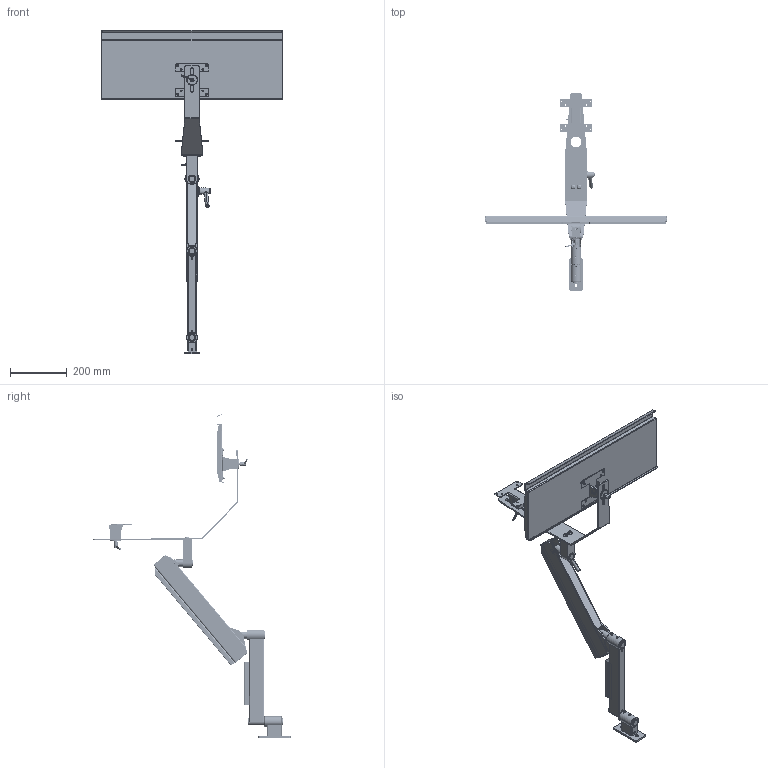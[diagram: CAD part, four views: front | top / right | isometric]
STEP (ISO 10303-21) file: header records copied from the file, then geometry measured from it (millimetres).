
FILE_DESCRIPTION (( 'STEP AP203' ), '1' );
FILE_NAME ('70-8651-00 REV AA, INT. ULTRA FLEX 360, 18-43 LB - UP.STEP', '2025-10-01T23:24:58', ( '' ), ( '' ), 'SwSTEP 2.0', 'SolidWorks 2025', '' );
FILE_SCHEMA (( 'CONFIG_CONTROL_DESIGN' ));
Length unit declared in the file: inch
Products named in the file (65): 11-0601-99 REV AA, CONICAL KNOB, BRAKE ASSEMBLY; 71-0072-RX REV AA, EXTENSION ARM, RAW; 11-0602-RX REV AA, HANDLE, BRAKE ASSEMBLY; 025-064-00, LOCK LEVER, QUARTER20 x .390; 004-050-00, WASHER, FIBER, .032 THK, .265ID; 71-0071-RX REV AA, AXLE PIN, LONG; 71-0028-RX REV AA, TAB, MOUNT_MACHINE; 11-0027-RX REV AA, PLASTIC DISC, BRAKE ASSEMBLY_MACHINE; 71-1051-RX REV AA, SPRING BLOCK; 004-144-00; 70-0269-00 REV AA, CABLE COVER, 13.5in FLEX, BLACK; 71-0090-RX REV AA, HOUSING, MOUNT; 41-0060-RX REV AA, BODY, VESA, INT. WORKSTATION; 006-004-00_006-004-00; 71-0218-RX REV AA, PLATE, MICRO HD, 4.5 x 2.0 x .25_Laser; 11-0405-BLKX REV AA, BRACKET, INTEGRATED WORKSTATION, BLACK; 010-012-00, RETAINING RING, EXTERNAL, .875in SHAFT; 70-1343-00 REV AA, FLEX SECTION, 13.5in, 18-43 LB_Angle Up; 010-011-00, RETAINING RING, EXT, .250 SHAFT_010-011-00; 41-0063-RX REV AA, PIN, TILT, VESA; 016-012-00, OILITE PLUS BEARING, .876 IDx1.0 OD x 1.0; 11-0650-00 REV AA, BRAKE HANDLE ASSEMBLY; 71-0038-RX REV AA, PIVOT, KNUCKLE, ELECTROLESS NICKEL; 71-1301-BLKX REV AA, FLEX HOUSING, 13.5in, BLACK_Weld; 70-0018-00 REV AA, MICRO HD WALL MOUNT; 005-084-00, BOLT, 1''4-20x2.75; 71-0037-RX REV AA, PIVOT, THREADED; 11-0062-BLKX REV AA, BRACKET, VESA, SHEETMETAL, BLACK; 002-306-00, BHSCS, 3''8-16 x .625; 71-1300-RX REV AA, HOUSING, 13.5in FLEX; 11-0406-BLKX REV AA, KEYBOARD TRAY, 25x8, BLACK; 002-041-00_002-041-00; 016-070-00, BEARING, PLASTIC, .5ID x .625 OD x .75; 71-0031-RX REV AA, KNUCKLE, MOUNT_MACHINE; 007-017-00, SHSS, 1''4-20, .25L_DEFAULT; 70-1012-00 REV AA, 12in RIGID SECTION; 006-059-00; 11-0028-RX REV AA, PLASTIC DISC, VESA; 002-088-00, FHSCS 10-32 x .5L, BO_002-088-00; 71-0972-99 REV AA, END CAP, FLEX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
Assembly tree (116 placements, depth 5):
  70-8651-00 REV AA, INT. ULTRA FLEX 360, 18-43 LB - UP
    70-0018-00 REV AA, MICRO HD WALL MOUNT
      71-0218-RX REV AA, PLATE, MICRO HD, 4.5 x 2.0 x .25_Laser
      71-0090-RX REV AA, HOUSING, MOUNT
      71-2113-RX REV AA, HOUSING, BEARING, TALL, 1.5OD_MACHINE
      016-007-00, OILITE PLUS BEARING, 0.876 id x 1.002 od x 0.75 lg
      016-008-00, OILITE PLUS BEARING, 0.876 id x 1.002 od x 1.25 lg
      007-036-00, SHSS, 1''4-28, .25L_007-036-00
    70-1012-00 REV AA, 12in RIGID SECTION
      71-1012-RX REV AA, HOUSING, 12in RIGID_MACHINE
      71-0022-RX REV AA, PIN, RIGID SECTION
      71-2113-RX REV AA, HOUSING, BEARING, TALL, 1.5OD_MACHINE
      016-007-00, OILITE PLUS BEARING, 0.876 id x 1.002 od x 0.75 lg
      016-008-00, OILITE PLUS BEARING, 0.876 id x 1.002 od x 1.25 lg
      007-036-00, SHSS, 1''4-28, .25L_007-036-00
      010-012-00, RETAINING RING, EXTERNAL, .875in SHAFT
    70-0272-00 REV AA, CABLE COVER, 12in RIGID, BLACK
    70-1343-00 REV AA, FLEX SECTION, 13.5in, 18-43 LB_Angle Up
      71-0031-RX REV AA, KNUCKLE, MOUNT_MACHINE
      71-1032-RX REV AA, SPRING ROD, 13.5in FLEX
      71-0030-RX REV AA, KNUCKLE, LOAD_MACHINE
      71-0038-RX REV AA, PIVOT, KNUCKLE, ELECTROLESS NICKEL
      71-1033-RX REV AA, BOLT, ADJUSTING, 10.9
      71-0037-RX REV AA, PIVOT, THREADED
      71-0040-RX REV AA, BRAKE BLOCK, WIDE_MACHINE
      71-1051-RX REV AA, SPRING BLOCK
      71-1301-BLKX REV AA, FLEX HOUSING, 13.5in, BLACK_Weld
        71-1300-RX REV AA, HOUSING, 13.5in FLEX
        71-0029-RX REV AA, TAB, LOAD  x2
        71-0028-RX REV AA, TAB, MOUNT_MACHINE  x2
      71-0070-RX REV AA, AXLE PIN, SHORT
      71-0071-RX REV AA, AXLE PIN, LONG
      71-0972-99 REV AA, END CAP, FLEX  x2
      11-0027-RX REV AA, PLASTIC DISC, BRAKE ASSEMBLY_MACHINE
      11-0650-00 REV AA, BRAKE HANDLE ASSEMBLY
        11-0601-99 REV AA, CONICAL KNOB, BRAKE ASSEMBLY
        11-0602-RX REV AA, HANDLE, BRAKE ASSEMBLY
        11-0027-RX REV AA, PLASTIC DISC, BRAKE ASSEMBLY_MACHINE
        005-084-00, BOLT, 1''4-20x2.75
      006-004-00_006-004-00  x2
      002-041-00_002-041-00  x2
      010-012-00, RETAINING RING, EXTERNAL, .875in SHAFT  x2
      010-011-00, RETAINING RING, EXT, .250 SHAFT_010-011-00  x4
      011-033-00
      004-050-00, WASHER, FIBER, .032 THK, .265ID  x8
      011-020-00 REV AA, PIN, KNURLED, 1.0LG x .25OD  x2
      004-144-00  x3
      006-059-00
      013-036-00, SPRING, GREEN, 1x8_ISO425203
      016-070-00, BEARING, PLASTIC, .5ID x .625 OD x .75  x2
    70-0269-00 REV AA, CABLE COVER, 13.5in FLEX, BLACK
    70-0080-00 REV AA, INTEGRATED WORKSTATION_TRAY HORIZONTAL
      11-0405-BLKX REV AA, BRACKET, INTEGRATED WORKSTATION, BLACK
      42-0060-00 REV AA, VESA SUB ASSEMBLY, INT. WORKSTATION
        41-0060-ANX REV AA, BODY, VESA, INT. WORKSTATION, BLACK
          41-0060-RX REV AA, BODY, VESA, INT. WORKSTATION
        41-0063-RX REV AA, PIN, TILT, VESA
        11-0062-BLKX REV AA, BRACKET, VESA, SHEETMETAL, BLACK
        11-0027-RX REV AA, PLASTIC DISC, BRAKE ASSEMBLY_MACHINE
        025-064-00, LOCK LEVER, QUARTER20 x .390
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Bounding box: 641.2 x 694.28 x 1140.16 mm (x, y, z)
Volume: 1707893.2 mm3; surface area: 1192159 mm2
Topology: 112 solids, 112 shells, 3557 faces, 8666 edges, 5340 vertices
Faces by surface type: cylinder 1582, plane 984, cone 736, torus 155, bspline 90, sphere 10
Entity records: 104661 total; most frequent: CARTESIAN_POINT 55679, ORIENTED_EDGE 8552, DIRECTION 8460, EDGE_CURVE 4276, AXIS2_PLACEMENT_3D 3233, VERTEX_POINT 2632, VECTOR 1994, LINE 1994
